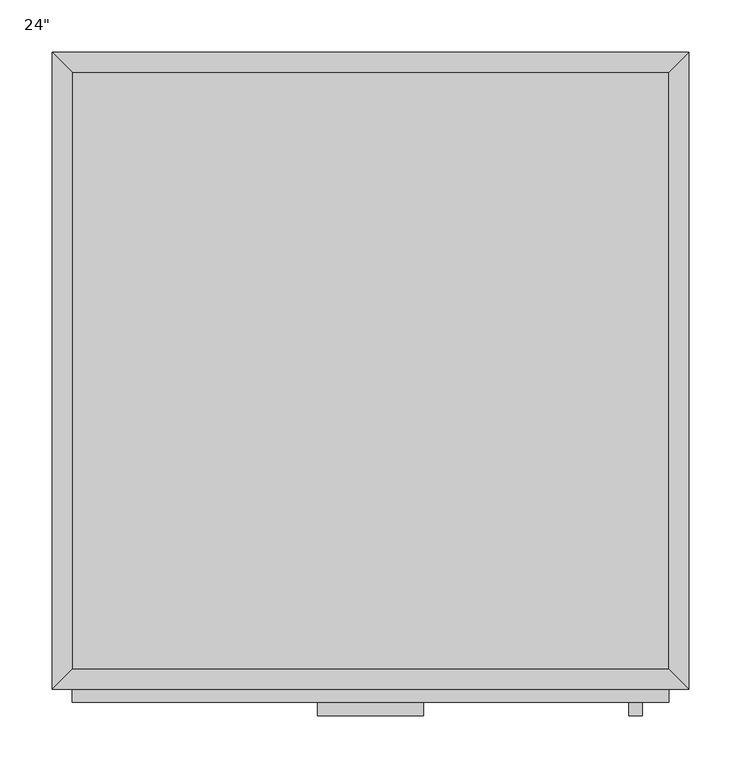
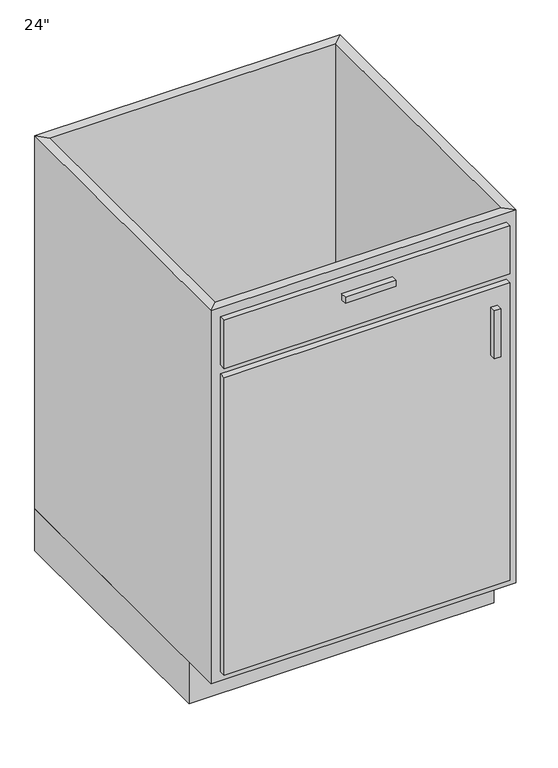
"""IFC4 building model written with IfcOpenShell, lengths in millimetres: furniture geometry."""

import ifcopenshell
import ifcopenshell.guid

model = None  # the IFC model being written
_history = None  # IfcOwnerHistory: only IFC2X3 demands one
_inside = {}  # id of a spatial element -> (the spatial element, [elements in it])
_under = {}  # id of a project, library or spatial element -> (it, [spatial elements below it])
_declared = {}  # id of a project -> (the project, [libraries it declares])
_typed = {}  # id of a type object -> (the type object, [elements of that type])
_made_of = {}  # id of a material, layer set ... -> (it, [elements and type objects made of it])


def new_model(schema):
    """Start an empty IFC model of exactly this schema.

    Asked for "IFC4X3", IfcOpenShell would pick the latest addendum, in which some entities
    have other attributes; the version numbers below select the first issue.
    IFC2X3 requires an IfcOwnerHistory on every rooted entity: one is made here for all.
    """
    global model, _history
    if schema == "IFC4X3":
        model = ifcopenshell.file(schema_version=(4, 3, 0, 0))
    else:
        model = ifcopenshell.file(schema=schema)
    _inside.clear()
    _under.clear()
    _declared.clear()
    _typed.clear()
    _made_of.clear()
    _history = None
    if model.schema == "IFC2X3":
        org = make("IfcOrganization", Name="unknown")
        user = make(
            "IfcPersonAndOrganization",
            ThePerson=make("IfcPerson", FamilyName="unknown"),
            TheOrganization=org,
        )
        app = make(
            "IfcApplication",
            ApplicationDeveloper=org,
            Version="unknown",
            ApplicationFullName="unknown",
            ApplicationIdentifier="unknown",
        )
        _history = make(
            "IfcOwnerHistory",
            OwningUser=user,
            OwningApplication=app,
            ChangeAction="ADDED",
            CreationDate=0,
        )
    return model


def make(cls, **values):
    """One entity of the class cls with the attributes given. An attribute that is None is left unset."""
    return model.create_entity(
        cls, **{name: value for name, value in values.items() if value is not None}
    )


def rooted(cls, **values):
    """An entity with a GlobalId (a new one), such as an element, a storey or a relation."""
    return make(cls, GlobalId=ifcopenshell.guid.new(), OwnerHistory=_history, **values)


def si_unit(unit_type, name, prefix=None):
    """IfcSIUnit, for example si_unit("LENGTHUNIT", "METRE", prefix="MILLI")."""
    return make("IfcSIUnit", UnitType=unit_type, Prefix=prefix, Name=name)


def assignment(units):
    """IfcUnitAssignment: the units of a project."""
    return None if units is None else make("IfcUnitAssignment", Units=units)


def point(xyz):
    """IfcCartesianPoint."""
    return None if xyz is None else make("IfcCartesianPoint", Coordinates=xyz)


def direction(xyz):
    """IfcDirection."""
    return None if xyz is None else make("IfcDirection", DirectionRatios=xyz)


def frame(location, z_axis=None, x_axis=None):
    """IfcAxis2Placement3D, a coordinate frame: its origin and axes. An axis left out is left unset."""
    return make(
        "IfcAxis2Placement3D",
        Location=point(location),
        Axis=direction(z_axis),
        RefDirection=direction(x_axis),
    )


def origin():
    """The frame at (0, 0, 0) with its axes left unset."""
    return frame((0.0, 0.0, 0.0))


def origin_with_axes():
    """The frame at (0, 0, 0) with the z axis (0, 0, 1) and the x axis (1, 0, 0) written out."""
    return frame((0.0, 0.0, 0.0), z_axis=(0.0, 0.0, 1.0), x_axis=(1.0, 0.0, 0.0))


def place(relative_to, where):
    """IfcLocalPlacement: puts the frame where relative to a parent placement (None: the world)."""
    return make(
        "IfcLocalPlacement", PlacementRelTo=relative_to, RelativePlacement=where
    )


def context(
    kind, dimensions, precision=None, world=None, true_north=None, identifier=None
):
    """IfcGeometricRepresentationContext, for example the 3D "Model" context."""
    return make(
        "IfcGeometricRepresentationContext",
        ContextIdentifier=identifier,
        ContextType=kind,
        CoordinateSpaceDimension=dimensions,
        Precision=precision,
        WorldCoordinateSystem=world,
        TrueNorth=true_north,
    )


def project(units=None, contexts=None):
    """IfcProject with its units and contexts."""
    return rooted(
        "IfcProject",
        Name="project",
        RepresentationContexts=contexts,
        UnitsInContext=assignment(units),
    )


def spatial(cls, under=None, at=None, **own):
    """A site, building, storey or space (cls), placed at a placement, below another one or the project."""
    s = rooted(cls, ObjectPlacement=at, **own)
    if under is not None:
        _under.setdefault(under.id(), (under, []))[1].append(s)
    return s


def polyline(points):
    """IfcPolyline through the points."""
    return make("IfcPolyline", Points=[point(p) for p in points])


def outline(outer, holes=None, kind="AREA"):
    """IfcArbitraryClosedProfileDef: a profile drawn as a closed curve; with holes, ...WithVoids."""
    if holes is None:
        return make("IfcArbitraryClosedProfileDef", ProfileType=kind, OuterCurve=outer)
    return make(
        "IfcArbitraryProfileDefWithVoids",
        ProfileType=kind,
        OuterCurve=outer,
        InnerCurves=holes,
    )


def extrude(swept, where, along, depth):
    """IfcExtrudedAreaSolid: the profile swept, set in the frame where, extruded along a direction by depth."""
    return make(
        "IfcExtrudedAreaSolid",
        SweptArea=swept,
        Position=where,
        ExtrudedDirection=direction(along),
        Depth=depth,
    )


def faces_of(points, faces, orient=None, outer=None):
    """IfcFace entities. A face is a list of loops; a loop is a list of indices into points, from 0.

    orient and outer hold one flag for each loop. By default every Orientation is true, the
    first loop of a face is its IfcFaceOuterBound and the others are IfcFaceBound.
    """
    made = []
    for i, loops in enumerate(faces):
        bounds = []
        for j, loop in enumerate(loops):
            is_outer = j == 0 if outer is None else outer[i][j]
            bounds.append(
                make(
                    "IfcFaceOuterBound" if is_outer else "IfcFaceBound",
                    Bound=make("IfcPolyLoop", Polygon=[points[k] for k in loop]),
                    Orientation=True if orient is None else orient[i][j],
                )
            )
        made.append(make("IfcFace", Bounds=bounds))
    return made


def faceted_brep(points, faces, orient=None, outer=None, voids=None):
    """IfcFacetedBrep: a solid bounded by flat faces; with voids (closed shells), ...WithVoids."""
    shared = [point(p) for p in points]
    hull = make("IfcClosedShell", CfsFaces=faces_of(shared, faces, orient, outer))
    if voids is None:
        return make("IfcFacetedBrep", Outer=hull)
    return make(
        "IfcFacetedBrepWithVoids",
        Outer=hull,
        Voids=[
            make(cls, CfsFaces=faces_of(shared, fs, o, b)) for cls, fs, o, b in voids
        ],
    )


def shape(context_of_items, identifier, shape_type, items):
    """IfcShapeRepresentation: the items that make up one representation, for example the "Body"."""
    return make(
        "IfcShapeRepresentation",
        ContextOfItems=context_of_items,
        RepresentationIdentifier=identifier,
        RepresentationType=shape_type,
        Items=items,
    )


def source(mapping_origin, context_of_items, identifier, shape_type, items):
    """IfcRepresentationMap: a shape defined once, which mapped items show again and again."""
    return make(
        "IfcRepresentationMap",
        MappingOrigin=mapping_origin,
        MappedRepresentation=shape(context_of_items, identifier, shape_type, items),
    )


def transform(
    local_origin,
    x_axis=None,
    y_axis=None,
    z_axis=None,
    scale=None,
    scale2=None,
    scale3=None,
    uniform=True,
):
    """IfcCartesianTransformationOperator3D, or its non-uniform kind. x_axis, y_axis, z_axis: its Axis1, 2, 3."""
    if uniform:
        return make(
            "IfcCartesianTransformationOperator3D",
            Axis1=direction(x_axis),
            Axis2=direction(y_axis),
            LocalOrigin=point(local_origin),
            Scale=scale,
            Axis3=direction(z_axis),
        )
    return make(
        "IfcCartesianTransformationOperator3DnonUniform",
        Axis1=direction(x_axis),
        Axis2=direction(y_axis),
        LocalOrigin=point(local_origin),
        Scale=scale,
        Axis3=direction(z_axis),
        Scale2=scale2,
        Scale3=scale3,
    )


def mapped(mapping_source, mapping_target):
    """IfcMappedItem: shows the shape of a source again, moved by a transform."""
    return make(
        "IfcMappedItem", MappingSource=mapping_source, MappingTarget=mapping_target
    )


def made_of(thing, what):
    """Note that an element or type object is made of a material, layer set ...; save() writes the relation."""
    if what is not None:
        _made_of.setdefault(what.id(), (what, []))[1].append(thing)
    return thing


def element(
    cls,
    number,
    at=None,
    inside=None,
    cuts=None,
    type_object=None,
    material=None,
    context=None,
    identifier="Body",
    shape_type=None,
    held_by="IfcProductDefinitionShape",
    body=None,
    shapes=None,
    **own,
):
    """One element of the class cls, such as IfcWall. Its Tag is "e" and its number.

    at: its placement. inside: the storey or other place that contains it. cuts: it is an
    opening in that element (IfcRelVoidsElement). A single representation is given by context,
    identifier, shape_type and body (its items); several are given by shapes. held_by: the class
    of the entity that holds the representations. save() writes the other relations.
    """
    e = rooted(cls, Tag="e%d" % number, ObjectPlacement=at, **own)
    if body is not None:
        shapes = [shape(context, identifier, shape_type, body)]
    if shapes is not None:
        e.Representation = make(held_by, Representations=shapes)
    if inside is not None:
        _inside.setdefault(inside.id(), (inside, []))[1].append(e)
    if cuts is not None:
        rooted(
            "IfcRelVoidsElement", RelatingBuildingElement=cuts, RelatedOpeningElement=e
        )
    if type_object is not None:
        _typed.setdefault(type_object.id(), (type_object, []))[1].append(e)
    return made_of(e, material)


def aggregate(whole, parts):
    """IfcRelAggregates: a whole, such as a stair, and the parts it consists of."""
    return rooted("IfcRelAggregates", RelatingObject=whole, RelatedObjects=parts)


def save(model, path):
    """Write the relations noted so far, then the file.

    IfcRelAggregates (storeys below a building ...), IfcRelContainedInSpatialStructure (elements
    in a storey), IfcRelDefinesByType, IfcRelAssociatesMaterial and IfcRelDeclares: one each for
    every whole, place, type object, material and project.
    """
    for whole, parts in _under.values():
        aggregate(whole, parts)
    for where, things in _inside.values():
        rooted(
            "IfcRelContainedInSpatialStructure",
            RelatedElements=things,
            RelatingStructure=where,
        )
    for kind, things in _typed.values():
        rooted("IfcRelDefinesByType", RelatedObjects=things, RelatingType=kind)
    for what, things in _made_of.values():
        rooted("IfcRelAssociatesMaterial", RelatedObjects=things, RelatingMaterial=what)
    for by, libraries in _declared.values():
        rooted("IfcRelDeclares", RelatingContext=by, RelatedDefinitions=libraries)
    model.write(path)


def furniture_c05eaed2(model_context):
    return source(origin(), model_context, "Body", "SolidModel", [
        extrude(outline(polyline([(279.0877049, -635.0), (266.3877049, -635.0), (266.3877049, -622.3), (279.0877049, -622.3), (279.0877049, -635.0)])), frame((0.0, 0.0, 596.9), z_axis=(0.0, 0.0, 1.0), x_axis=(1.0, 0.0, 0.0)), (0.0, 0.0, 1.0), 101.6),
        extrude(outline(polyline([(69.5377049, -635.0), (-32.0622951, -635.0), (-32.0622951, -622.3), (69.5377049, -622.3), (69.5377049, -635.0)])), frame((0.0, 0.0, 819.15), z_axis=(0.0, 0.0, 1.0), x_axis=(1.0, 0.0, 0.0)), (0.0, 0.0, 1.0), 12.7),
        extrude(outline(polyline([(304.4877049, -622.3), (-267.0122951, -622.3), (-267.0122951, -609.6), (304.4877049, -609.6), (304.4877049, -622.3)])), frame((0.0, 0.0, 107.95), z_axis=(0.0, 0.0, 1.0), x_axis=(1.0, 0.0, 0.0)), (0.0, 0.0, 1.0), 628.65),
        extrude(outline(polyline([(304.4877049, -622.3), (-267.0122951, -622.3), (-267.0122951, -609.6), (304.4877049, -609.6), (304.4877049, -622.3)])), frame((0.0, 0.0, 755.65), z_axis=(0.0, 0.0, 1.0), x_axis=(1.0, 0.0, 0.0)), (0.0, 0.0, 1.0), 101.6),
        extrude(outline(polyline([(304.4877049, -19.05), (304.4877049, -590.55), (-267.0122951, -590.55), (-267.0122951, -19.05), (304.4877049, -19.05)])), frame((0.0, 0.0, 88.9), z_axis=(0.0, 0.0, 1.0), x_axis=(1.0, 0.0, 0.0)), (0.0, 0.0, 1.0), 19.05),
        faceted_brep([(304.4877049, -590.55, 876.3), (304.4877049, -590.55, 88.9), (-267.0122951, -590.55, 88.9), (-267.0122951, -590.55, 876.3), (323.5377049, -609.6, 876.3), (-286.0622951, -609.6, 876.3), (323.5377049, -609.6, 88.9), (-286.0622951, -609.6, 88.9), (-267.0122951, -19.05, 88.9), (-267.0122951, -19.05, 876.3), (-286.0622951, 0.0, 876.3), (-286.0622951, 0.0, 88.9), (304.4877049, -19.05, 88.9), (304.4877049, -19.05, 876.3), (323.5377049, 0.0, 876.3), (323.5377049, 0.0, 88.9)], [[[0, 1, 2, 3]], [[4, 0, 3, 5]], [[6, 4, 5, 7]], [[1, 6, 7, 2]], [[3, 2, 8, 9]], [[5, 3, 9, 10]], [[7, 5, 10, 11]], [[2, 7, 11, 8]], [[9, 8, 12, 13]], [[10, 9, 13, 14]], [[11, 10, 14, 15]], [[8, 11, 15, 12]], [[13, 12, 1, 0]], [[14, 13, 0, 4]], [[15, 14, 4, 6]], [[12, 15, 6, 1]]]),
        extrude(outline(polyline([(323.5377049, 0.0), (323.5377049, -533.4), (-286.0622951, -533.4), (-286.0622951, 0.0), (323.5377049, 0.0)])), origin_with_axes(), (0.0, 0.0, 1.0), 88.9),
    ])


if __name__ == "__main__":
    model = new_model("IFC4")
    model_context = context("Model", 3, world=origin())
    ifc_project = project(units=[si_unit("LENGTHUNIT", "METRE", prefix="MILLI")], contexts=[model_context])
    site = spatial("IfcSite", under=ifc_project)
    building = spatial("IfcBuilding", under=site)
    placement = place(None, origin())
    furniture_shape = furniture_c05eaed2(model_context)
    element("IfcFurniture", 1, ObjectType="Base Cabinet-Single Door & Drawer : 24\"", at=placement, inside=building, context=model_context, shape_type="MappedRepresentation", body=[
        mapped(furniture_shape, transform((0.0, 0.0, 0.0), x_axis=(1.0, 0.0, 0.0), y_axis=(0.0, 1.0, 0.0), z_axis=(0.0, 0.0, 1.0))),
    ])
    save(model, "model.ifc")
